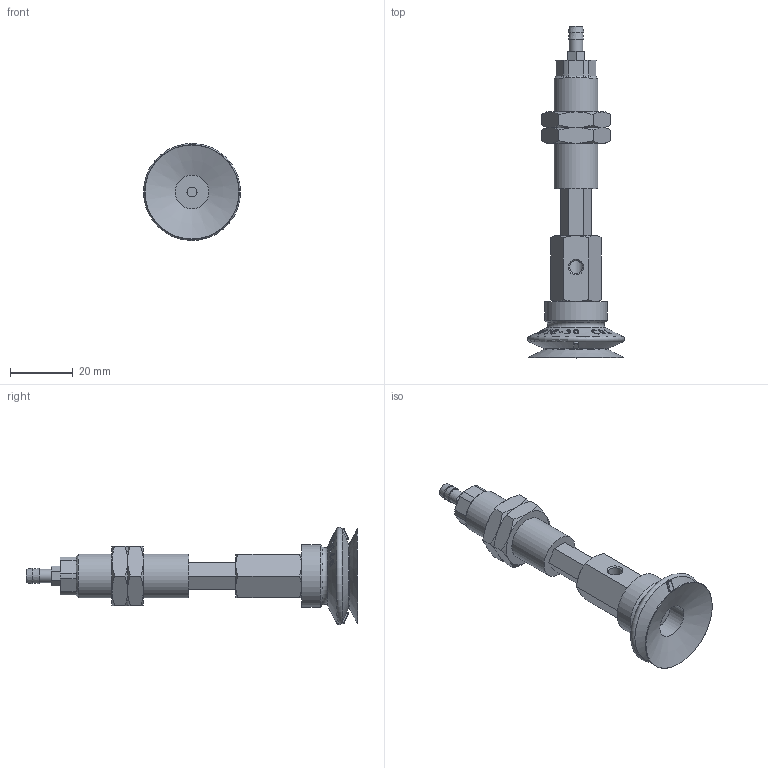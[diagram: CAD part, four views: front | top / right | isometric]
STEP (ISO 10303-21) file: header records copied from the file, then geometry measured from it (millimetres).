
FILE_DESCRIPTION(('STEP AP214'),'1');
FILE_NAME('-T.stp','2026-01-21T07:10:28',(' '),(' '),'Spatial InterOp 3D',' ',' ');
FILE_SCHEMA(('AUTOMOTIVE_DESIGN { 1 0 10303 214 1 1 1 1 }'));
Length unit declared in the file: millimetre
Products named in the file (8): BNABPJYH-30-15-※-T; T; BPJG-30-※; Adapter-30-NAPJ; CONNECTOR_H-30-15; NAPJH-30-15-NUT; NAPJYH-30-15-FBODY; NAPJYH-30-15-MBODY
Assembly tree (8 placements, depth 2):
  BNABPJYH-30-15-※-T
    T
    BPJG-30-※
    Adapter-30-NAPJ
    CONNECTOR_H-30-15
    NAPJH-30-15-NUT  x2
    NAPJYH-30-15-FBODY
    NAPJYH-30-15-MBODY
Bounding box: 30.99 x 106 x 30.99 mm (x, y, z)
Volume: 17924.2 mm3; surface area: 13207.6 mm2
Topology: 8 solids, 8 shells, 810 faces, 2232 edges, 1465 vertices
Faces by surface type: plane 699, cone 73, cylinder 31, torus 7
Full cylindrical faces by diameter (mm): 3 x3, 4.134 x2, 4.3 x1, 4.917 x1, 5 x2, 5.8 x1, 6 x1, 10.8 x1, 11 x1, 13.188 x2, 14 x1, 20 x1
Entity records: 32307 total; most frequent: CARTESIAN_POINT 7921, ORIENTED_EDGE 4282, DIRECTION 2763, EDGE_CURVE 2141, VERTEX_POINT 1432, B_SPLINE_CURVE_WITH_KNOTS 1083, LINE 945, VECTOR 945
